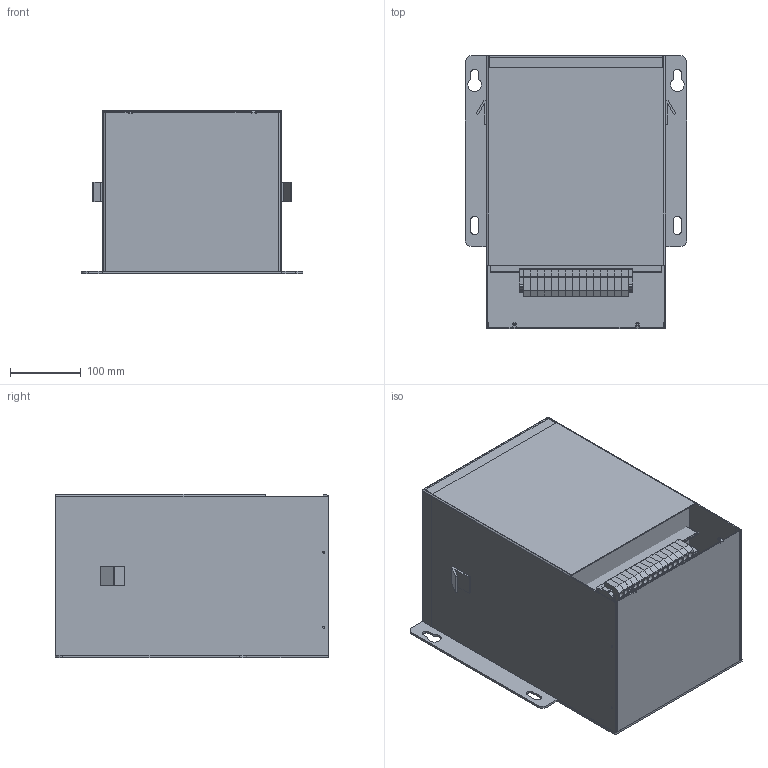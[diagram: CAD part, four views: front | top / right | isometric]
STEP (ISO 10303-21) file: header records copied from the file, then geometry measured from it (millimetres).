
FILE_DESCRIPTION (( 'STEP AP203' ), '1' );
FILE_NAME ('MT-DOE16-FP-3P-600D-5KVA-230Y.133-N3R.STEP', '2024-04-11T20:47:22', ( '' ), ( '' ), 'SwSTEP 2.0', 'SolidWorks 2020', '' );
FILE_SCHEMA (( 'CONFIG_CONTROL_DESIGN' ));
Length unit declared in the file: inch
Products named in the file (11): 226523-4; 226523-6; 281-916.stp; 281-601.stp; 226523-2; 226523-10_9473T57; MT-ISX-FP-3P-480Y-3KVA-480D-N3R; 226523-1; MT-DOE16-FP-3P-600D-5KVA-230Y.133-N3R; 226523-3; 226523-7
Assembly tree (32 placements, depth 2):
  MT-DOE16-FP-3P-600D-5KVA-230Y.133-N3R
    226523-1
    226523-2
    226523-3
    226523-4  x2
    MT-ISX-FP-3P-480Y-3KVA-480D-N3R
    226523-6
    226523-7  x2
    226523-10_9473T57  x19
    281-601.stp  x2
    281-916.stp  x2
Bounding box: 314.45 x 387.38 x 231.78 mm (x, y, z)
Volume: 1664857.8 mm3; surface area: 1423745.3 mm2
Topology: 32 solids, 32 shells, 2806 faces, 7747 edges, 5110 vertices
Faces by surface type: plane 1748, cylinder 962, cone 92, bspline 4
Entity records: 18721 total; most frequent: CARTESIAN_POINT 3237, DIRECTION 2872, ORIENTED_EDGE 2856, EDGE_CURVE 1428, LINE 1066, VECTOR 1066, VERTEX_POINT 924, AXIS2_PLACEMENT_3D 903
